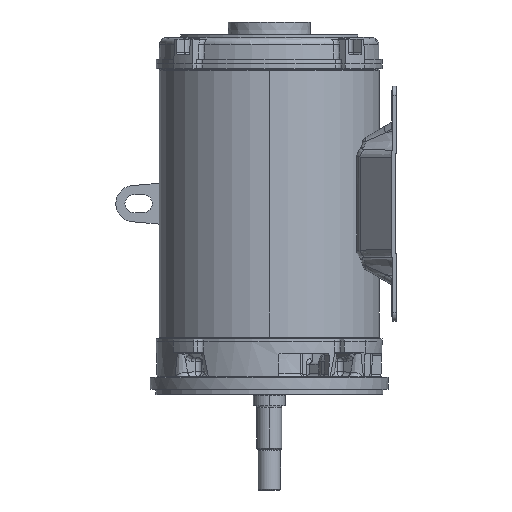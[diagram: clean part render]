
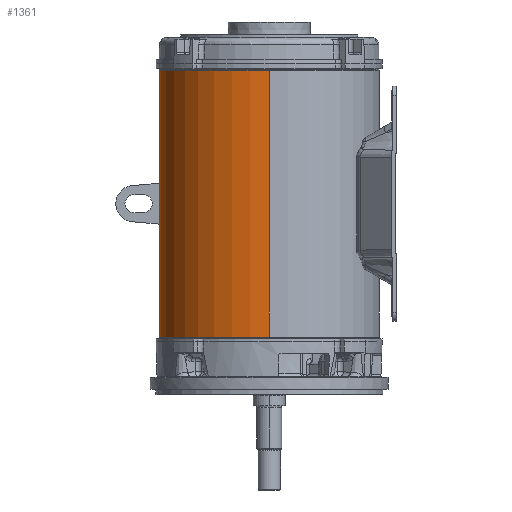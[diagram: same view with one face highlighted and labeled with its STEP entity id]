
A CAD part, left-side view. The second image highlights one B-rep face of the part: STEP entity #1361.
In plain terms, the highlighted cylindrical face has radius 153.805 mm (diameter 307.609 mm), a partial arc.
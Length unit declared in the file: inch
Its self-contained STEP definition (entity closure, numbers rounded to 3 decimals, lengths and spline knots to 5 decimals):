
#136=CARTESIAN_POINT('',(0.,0.,7.34222));
#137=DIRECTION('',(0.,0.,1.));
#138=DIRECTION('',(1.,0.,0.));
#139=AXIS2_PLACEMENT_3D('',#136,#137,#138);
#141=CARTESIAN_POINT('',(0.,0.,7.34222));
#142=DIRECTION('',(0.,0.,1.));
#143=DIRECTION('',(0.,1.,0.));
#144=AXIS2_PLACEMENT_3D('',#141,#142,#143);
#146=CARTESIAN_POINT('',(-5.88146,1.44053,-2.61528));
#147=CARTESIAN_POINT('',(-5.89298,1.39349,-2.62329));
#148=CARTESIAN_POINT('',(-5.91483,1.2994,-2.63957));
#149=CARTESIAN_POINT('',(-5.94405,1.15835,-2.66418));
#150=CARTESIAN_POINT('',(-5.96984,1.01712,-2.68844));
#151=CARTESIAN_POINT('',(-5.99223,0.87557,
-2.71176));
#152=CARTESIAN_POINT('',(-6.01128,0.73349,-2.73348));
#153=CARTESIAN_POINT('',(-6.02702,0.59046,
-2.75293));
#154=CARTESIAN_POINT('',(-6.03943,0.44608,
-2.76939));
#155=CARTESIAN_POINT('',(-6.04847,0.2999,
-2.78205));
#156=CARTESIAN_POINT('',(-6.05402,0.15158,
-2.79015));
#157=CARTESIAN_POINT('',(-6.0553,0.0508,
-2.79206));
#158=CARTESIAN_POINT('',(-6.0553,0.,
-2.79206));
#160=CARTESIAN_POINT('',(-5.66307,2.1439,-3.2495));
#161=CARTESIAN_POINT('',(-5.66308,2.14389,-3.20259));
#162=CARTESIAN_POINT('',(-5.66654,2.13477,-3.11092));
#163=CARTESIAN_POINT('',(-5.68239,2.09243,-2.97528));
#164=CARTESIAN_POINT('',(-5.70699,2.02468,-2.85532));
#165=CARTESIAN_POINT('',(-5.73851,1.9339,-2.75348));
#166=CARTESIAN_POINT('',(-5.77427,1.82465,-2.67565));
#167=CARTESIAN_POINT('',(-5.81155,1.70252,-2.62475));
#168=CARTESIAN_POINT('',(-5.84856,1.57075,-2.60276));
#169=CARTESIAN_POINT('',(-5.87078,1.48415,-2.60786));
#170=CARTESIAN_POINT('',(-5.88146,1.44053,-2.61528));
#172=DIRECTION('',(0.,0.,1.));
#173=VECTOR('',#172,3.);
#174=CARTESIAN_POINT('',(-5.66307,2.1439,-6.2495));
#175=LINE('',#174,#173);
#176=CARTESIAN_POINT('',(-5.88146,1.44053,-6.88372));
#177=CARTESIAN_POINT('',(-5.87068,1.48454,-6.8912));
#178=CARTESIAN_POINT('',(-5.8483,1.5717,-6.89619));
#179=CARTESIAN_POINT('',(-5.81142,1.70294,-6.87409));
#180=CARTESIAN_POINT('',(-5.77418,1.82494,-6.8232));
#181=CARTESIAN_POINT('',(-5.73847,1.93401,-6.74536));
#182=CARTESIAN_POINT('',(-5.70707,2.02443,-6.64402));
#183=CARTESIAN_POINT('',(-5.68242,2.09233,-6.5239));
#184=CARTESIAN_POINT('',(-5.66662,2.13456,-6.389));
#185=CARTESIAN_POINT('',(-5.66308,2.1439,-6.2968));
#186=CARTESIAN_POINT('',(-5.66307,2.1439,-6.2495));
#188=CARTESIAN_POINT('',(-6.0553,0.,
-6.70694));
#189=CARTESIAN_POINT('',(-6.0553,0.05085,
-6.70694));
#190=CARTESIAN_POINT('',(-6.05402,0.15171,
-6.70885));
#191=CARTESIAN_POINT('',(-6.04846,0.30008,
-6.71696));
#192=CARTESIAN_POINT('',(-6.03942,0.44629,
-6.72963));
#193=CARTESIAN_POINT('',(-6.027,0.59067,
-6.74609));
#194=CARTESIAN_POINT('',(-6.01126,0.73367,
-6.76555));
#195=CARTESIAN_POINT('',(-5.99221,0.87573,
-6.78727));
#196=CARTESIAN_POINT('',(-5.96981,1.01727,-6.81058));
#197=CARTESIAN_POINT('',(-5.94403,1.15849,-6.83484));
#198=CARTESIAN_POINT('',(-5.9148,1.2995,-6.85945));
#199=CARTESIAN_POINT('',(-5.89297,1.39352,-6.87572));
#200=CARTESIAN_POINT('',(-5.88146,1.44053,-6.88372));
#202=CARTESIAN_POINT('',(0.,0.,-7.34322));
#203=DIRECTION('',(0.,0.,1.));
#204=DIRECTION('',(0.,1.,0.));
#205=AXIS2_PLACEMENT_3D('',#202,#203,#204);
#207=CARTESIAN_POINT('',(0.,0.,-7.34322));
#208=DIRECTION('',(0.,0.,1.));
#209=DIRECTION('',(1.,0.,0.));
#210=AXIS2_PLACEMENT_3D('',#207,#208,#209);
#212=DIRECTION('',(0.,0.,1.));
#213=VECTOR('',#212,14.68545);
#214=CARTESIAN_POINT('',(6.0553,0.,-7.34322));
#215=LINE('',#214,#213);
#236=DIRECTION('',(0.,0.,1.));
#237=VECTOR('',#236,0.63628);
#238=CARTESIAN_POINT('',(-6.0553,0.,-7.34322));
#239=LINE('',#238,#237);
#248=CARTESIAN_POINT('',(-6.0553,0.,
-6.70694));
#288=DIRECTION('',(0.,0.,1.));
#289=VECTOR('',#288,10.13428);
#290=CARTESIAN_POINT('',(-6.0553,0.,
-2.79206));
#291=LINE('',#290,#289);
#1025=CARTESIAN_POINT('',(6.0553,0.,7.34222));
#1026=CARTESIAN_POINT('',(0.,6.0553,7.34222));
#1027=VERTEX_POINT('',#1025);
#1028=VERTEX_POINT('',#1026);
#1029=CARTESIAN_POINT('',(-6.0553,0.,7.34222));
#1030=VERTEX_POINT('',#1029);
#1035=CARTESIAN_POINT('',(6.0553,0.,-7.34322));
#1036=VERTEX_POINT('',#1035);
#1059=CARTESIAN_POINT('',(0.,6.0553,-7.34322));
#1060=VERTEX_POINT('',#1059);
#1061=CARTESIAN_POINT('',(-6.0553,0.,-7.34322));
#1062=VERTEX_POINT('',#1061);
#1101=CARTESIAN_POINT('',(-5.66307,2.1439,
-6.2495));
#1102=CARTESIAN_POINT('',(-5.66307,2.1439,
-3.2495));
#1103=VERTEX_POINT('',#1101);
#1104=VERTEX_POINT('',#1102);
#1106=VERTEX_POINT('',#170);
#1108=VERTEX_POINT('',#158);
#1120=VERTEX_POINT('',#248);
#1122=VERTEX_POINT('',#200);
#1331=CARTESIAN_POINT('',(0.,0.,-7.6875));
#1332=DIRECTION('',(0.,0.,1.));
#1333=DIRECTION('',(1.,0.,0.));
#1334=AXIS2_PLACEMENT_3D('',#1331,#1332,#1333);
#1335=CYLINDRICAL_SURFACE('',#1334,6.0553);
#1337=ORIENTED_EDGE('',*,*,#1336,.T.);
#1338=ORIENTED_EDGE('',*,*,#1319,.T.);
#1340=ORIENTED_EDGE('',*,*,#1339,.F.);
#1342=ORIENTED_EDGE('',*,*,#1341,.F.);
#1344=ORIENTED_EDGE('',*,*,#1343,.F.);
#1346=ORIENTED_EDGE('',*,*,#1345,.F.);
#1348=ORIENTED_EDGE('',*,*,#1347,.F.);
#1350=ORIENTED_EDGE('',*,*,#1349,.F.);
#1352=ORIENTED_EDGE('',*,*,#1351,.F.);
#1354=ORIENTED_EDGE('',*,*,#1353,.F.);
#1356=ORIENTED_EDGE('',*,*,#1355,.F.);
#1358=ORIENTED_EDGE('',*,*,#1357,.T.);
#1359=EDGE_LOOP('',(#1337,#1338,#1340,#1342,#1344,#1346,#1348,#1350,#1352,#1354,
#1356,#1358));
#1360=FACE_OUTER_BOUND('',#1359,.F.);
#1361=ADVANCED_FACE('',(#1360),#1335,.T.);
#140=CIRCLE('',#139,6.0553);
#145=CIRCLE('',#144,6.0553);
#159=B_SPLINE_CURVE_WITH_KNOTS('',3,(#146,#147,#148,#149,#150,#151,#152,#153,
#154,#155,#156,#157,#158),.UNSPECIFIED.,.F.,.F.,(4,1,1,1,1,1,1,1,1,1,4),(0.,
0.1,0.2,0.3,0.4,0.5,0.6,0.7,0.8,0.9,1.),.UNSPECIFIED.);
#171=B_SPLINE_CURVE_WITH_KNOTS('',3,(#160,#161,#162,#163,#164,#165,#166,#167,
#168,#169,#170),.UNSPECIFIED.,.F.,.F.,(4,1,1,1,1,1,1,1,4),(0.,0.125,0.25,
0.375,0.5,0.625,0.75,0.875,1.),.UNSPECIFIED.);
#187=B_SPLINE_CURVE_WITH_KNOTS('',3,(#176,#177,#178,#179,#180,#181,#182,#183,
#184,#185,#186),.UNSPECIFIED.,.F.,.F.,(4,1,1,1,1,1,1,1,4),(0.,0.125,0.25,
0.375,0.5,0.625,0.75,0.875,1.),.UNSPECIFIED.);
#201=B_SPLINE_CURVE_WITH_KNOTS('',3,(#188,#189,#190,#191,#192,#193,#194,#195,
#196,#197,#198,#199,#200),.UNSPECIFIED.,.F.,.F.,(4,1,1,1,1,1,1,1,1,1,4),(0.,
0.1,0.2,0.3,0.4,0.5,0.6,0.7,0.8,0.9,1.),.UNSPECIFIED.);
#206=CIRCLE('',#205,6.0553);
#211=CIRCLE('',#210,6.0553);
#1319=EDGE_CURVE('',#1028,#1030,#145,.T.);
#1336=EDGE_CURVE('',#1027,#1028,#140,.T.);
#1339=EDGE_CURVE('',#1108,#1030,#291,.T.);
#1341=EDGE_CURVE('',#1106,#1108,#159,.T.);
#1343=EDGE_CURVE('',#1104,#1106,#171,.T.);
#1345=EDGE_CURVE('',#1103,#1104,#175,.T.);
#1347=EDGE_CURVE('',#1122,#1103,#187,.T.);
#1349=EDGE_CURVE('',#1120,#1122,#201,.T.);
#1351=EDGE_CURVE('',#1062,#1120,#239,.T.);
#1353=EDGE_CURVE('',#1060,#1062,#206,.T.);
#1355=EDGE_CURVE('',#1036,#1060,#211,.T.);
#1357=EDGE_CURVE('',#1036,#1027,#215,.T.);
